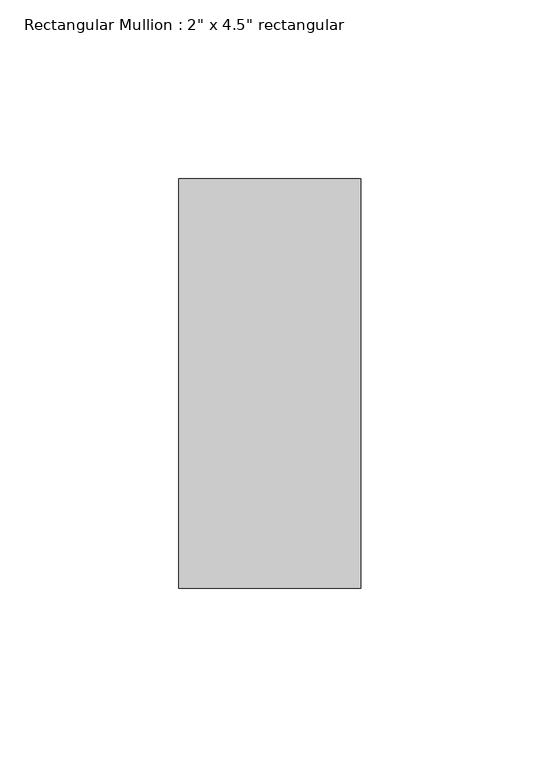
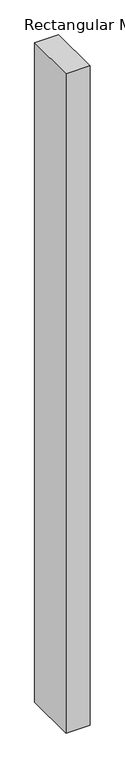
"""IFC4 building model written with IfcOpenShell, lengths in millimetres: member geometry."""

from ifc_helpers import new_model, si_unit, frame, origin, place, context, project, spatial, polyline, outline, extrude, source, transform, mapped, element, save


def member_910c08c9(model_context):
    return source(origin(), model_context, "Body", "SweptSolid", [
        extrude(outline(polyline([(0.0, 57.15), (0.0, -57.15), (-50.8, -57.15), (-50.8, 57.15), (0.0, 57.15)])), frame((0.0, 0.0, -1472.9473187), z_axis=(0.0, 0.0, 1.0), x_axis=(1.0, 0.0, 0.0)), (0.0, 0.0, 1.0), 1472.9473187),
    ])


if __name__ == "__main__":
    model = new_model("IFC4")
    model_context = context("Model", 3, world=origin())
    ifc_project = project(units=[si_unit("LENGTHUNIT", "METRE", prefix="MILLI")], contexts=[model_context])
    site = spatial("IfcSite", under=ifc_project)
    building = spatial("IfcBuilding", under=site)
    placement = place(None, origin())
    member_shape = member_910c08c9(model_context)
    element("IfcMember", 1, ObjectType="Rectangular Mullion : 2\" x 4.5\" rectangular", at=placement, inside=building, context=model_context, shape_type="MappedRepresentation", body=[
        mapped(member_shape, transform((0.0, 0.0, 0.0), x_axis=(1.0, 0.0, 0.0), y_axis=(0.0, 1.0, 0.0), z_axis=(0.0, 0.0, 1.0))),
    ])
    save(model, "model.ifc")
